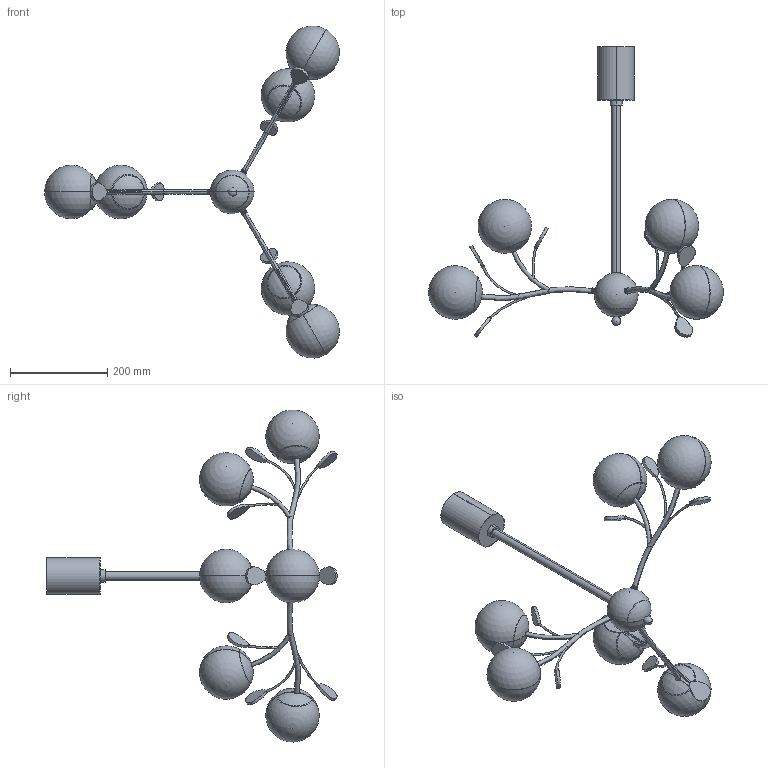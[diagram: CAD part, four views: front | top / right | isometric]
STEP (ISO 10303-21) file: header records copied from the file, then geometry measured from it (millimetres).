
FILE_DESCRIPTION (( 'STEP AP203' ), '1' );
FILE_NAME ('Melanie Chandelier-6heads.STEP', '2025-07-14T10:54:20', ( '' ), ( '' ), 'SwSTEP 2.0', 'SolidWorks 2022', '' );
FILE_SCHEMA (( 'CONFIG_CONTROL_DESIGN' ));
Length unit declared in the file: millimetre
Products named in the file (1): Melanie Chandelier-6heads
Bounding box: 605.74 x 596.81 x 682.33 mm (x, y, z)
Volume: 534618 mm3; surface area: 675807.5 mm2
Topology: 66 solids, 66 shells, 1082 faces, 2691 edges, 1779 vertices
Faces by surface type: plane 516, cylinder 373, bspline 111, sphere 58, torus 24
Entity records: 92875 total; most frequent: CARTESIAN_POINT 70114, ORIENTED_EDGE 5232, DIRECTION 3844, EDGE_CURVE 2616, VERTEX_POINT 1734, AXIS2_PLACEMENT_3D 1347, EDGE_LOOP 1184, LINE 1150
